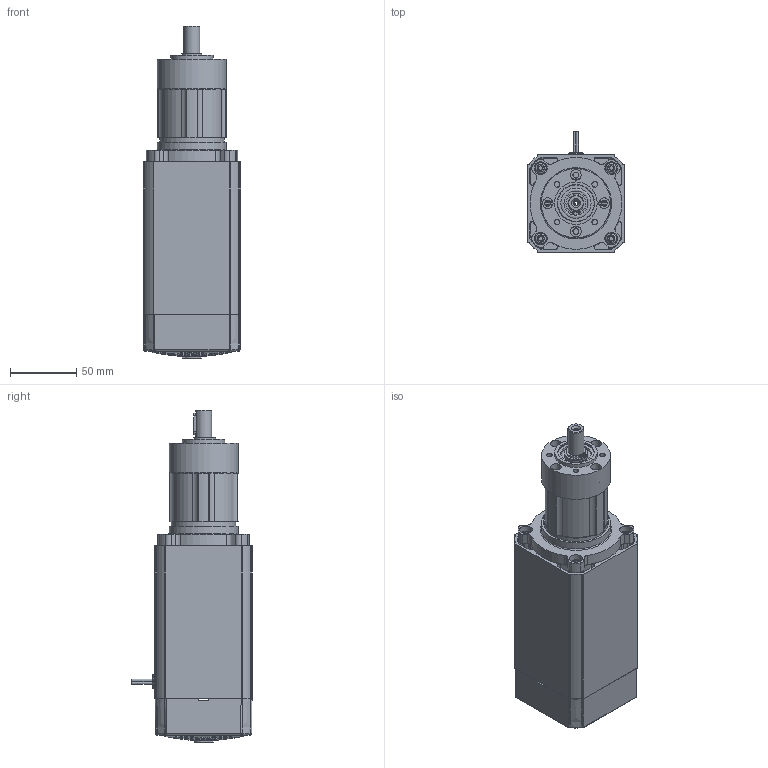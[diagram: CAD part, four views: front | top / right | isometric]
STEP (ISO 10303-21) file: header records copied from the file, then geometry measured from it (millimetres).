
FILE_DESCRIPTION (( 'STEP AP214' ), '1' );
FILE_NAME ('AC6540FC-PL5200iP_2S.STEP', '2014-05-06T12:25:27', ( '' ), ( '' ), 'SwSTEP 2.0', 'SolidWorks 2014', '' );
FILE_SCHEMA (( 'AUTOMOTIVE_DESIGN' ));
Length unit declared in the file: inch
Products named in the file (1): AC6540FC-PL5200iP_2S
Bounding box: 73.36 x 90.72 x 249.89 mm (x, y, z)
Surface area: 122851.4 mm2 (no closed solid volume)
Topology: 0 solids, 48 shells, 916 faces, 3878 edges, 2949 vertices
Faces by surface type: plane 566, cylinder 240, bspline 84, torus 13, cone 12, sphere 1
Full cylindrical faces by diameter (mm): 1.5 x2, 1.905 x4, 3.3 x1, 4.166 x4, 4.2 x4, 4.3 x1, 8 x4, 9.652 x4, 11.112 x1, 11.5 x1, 12 x1, 16.294 x1, 17.216 x1, 18 x1, 22.784 x1, 28 x1, 32 x1, 48.743 x1, 52 x1, 52.07 x1
Entity records: 57155 total; most frequent: CARTESIAN_POINT 14539, DIRECTION 6503, ORIENTED_EDGE 5551, EDGE_CURVE 3803, VERTEX_POINT 2940, AXIS2_PLACEMENT_3D 2425, LINE 1653, VECTOR 1653
